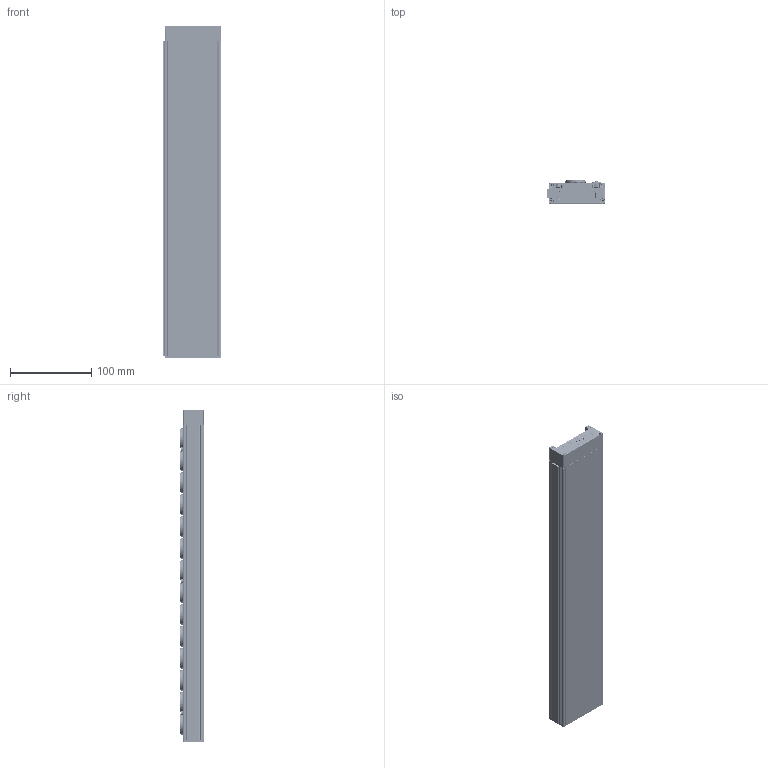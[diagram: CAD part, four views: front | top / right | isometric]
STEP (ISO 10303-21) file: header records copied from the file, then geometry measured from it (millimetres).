
FILE_DESCRIPTION (( 'STEP AP214' ), '1' );
FILE_NAME ('WMCS-411-0014 (3D).STEP', '2019-12-06T15:25:57', ( '' ), ( '' ), 'SwSTEP 2.0', 'SolidWorks 2016', '' );
FILE_SCHEMA (( 'AUTOMOTIVE_DESIGN' ));
Length unit declared in the file: millimetre
Products named in the file (1): WMCS-411-0014 (3D)
Bounding box: 70.93 x 28.8 x 408 mm (x, y, z)
Volume: 737506.5 mm3; surface area: 193515.1 mm2
Topology: 93 solids, 93 shells, 4817 faces, 11764 edges, 7270 vertices
Faces by surface type: plane 1986, cylinder 1404, bspline 917, cone 459, torus 37, sphere 14
Entity records: 178328 total; most frequent: CARTESIAN_POINT 63268, ORIENTED_EDGE 23352, DIRECTION 22253, EDGE_CURVE 11676, AXIS2_PLACEMENT_3D 8324, VERTEX_POINT 7270, VECTOR 5605, LINE 5605
